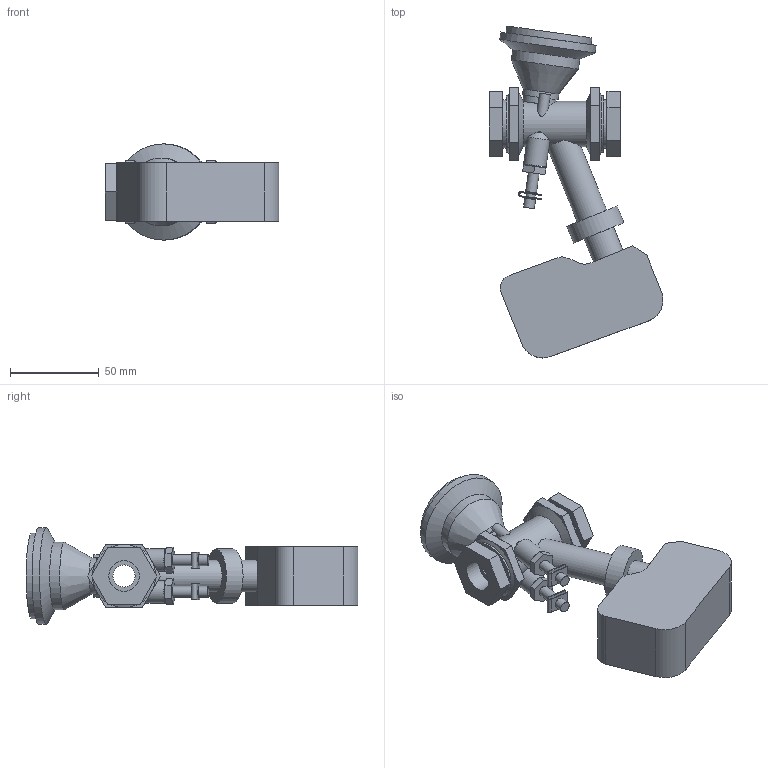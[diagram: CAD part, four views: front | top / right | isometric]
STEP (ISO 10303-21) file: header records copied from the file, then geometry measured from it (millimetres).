
FILE_DESCRIPTION(/* description */ ('VIC BALANCING AND CONTROL VALVE SERIES 7CP (FPT)-TA SLIDER 160 PLUS','CAx-IF Rec.Pracs.---Representation and Presentation of Product Manufacturing Information (PMI)---4.0---2014-10-13'),/* implementation_level */ '2;1');
FILE_NAME(/* name */ 'C:\Users\Vjadhav\AppData\Roaming\Autodesk\ApplicationPlugins\Victaulic.Temp\A633\Victaulic_IPS_Valve Balancing Pressure Independent_TA Series 7CP (FPT)_Slider 160 Plus_0.375 (10).stp',/* time_stamp */ '2021-09-14T20:02:16+06:00',/* author */ ('Vjadhav'),/* organization */ ('Victaulic'),/* preprocessor_version */ 'ST-DEVELOPER v17.2',/* originating_system */ 'Autodesk Inventor 2019',/* authorisation */ '');
FILE_SCHEMA (('AP242_MANAGED_MODEL_BASED_3D_ENGINEERING_MIM_LF { 1 0 10303 442 1 1 4 }'));
Length unit declared in the file: inch
Products named in the file (2): 7CP_Slider 160 Plus-0.375; 7CP-0.375
Assembly tree (1 placements, depth 2):
  7CP_Slider 160 Plus-0.375
    7CP-0.375
Bounding box: 97.8 x 186.69 x 54.1 mm (x, y, z)
Volume: 232430.9 mm3; surface area: 46631.2 mm2
Topology: 1 solids, 1 shells, 174 faces, 432 edges, 288 vertices
Faces by surface type: plane 120, cylinder 46, cone 8
Full cylindrical faces by diameter (mm): 5.08 x6, 6.096 x6, 12.522 x2, 12.7 x2, 17.145 x3, 17.78 x2, 20.32 x1, 25.4 x1, 27.432 x2, 30.471 x1, 31.75 x2, 38.1 x1, 48.26 x1, 54.102 x1
Entity records: 5722 total; most frequent: CARTESIAN_POINT 1120, DIRECTION 944, ORIENTED_EDGE 864, EDGE_CURVE 432, AXIS2_PLACEMENT_3D 350, VERTEX_POINT 288, LINE 244, VECTOR 244
